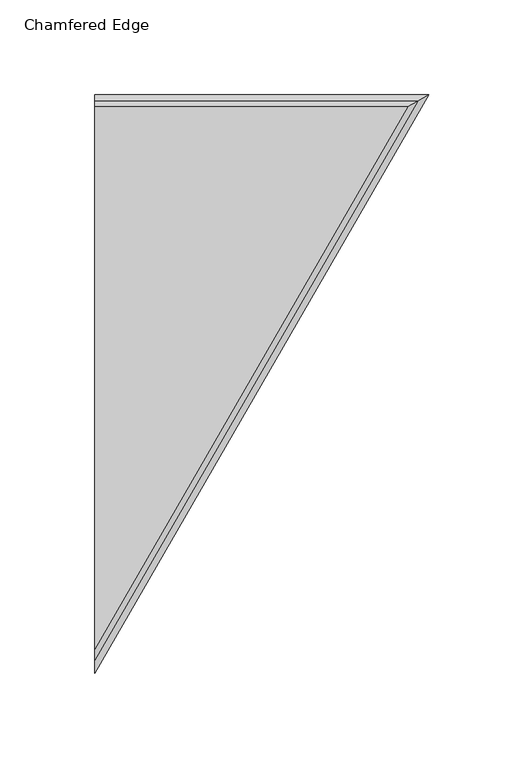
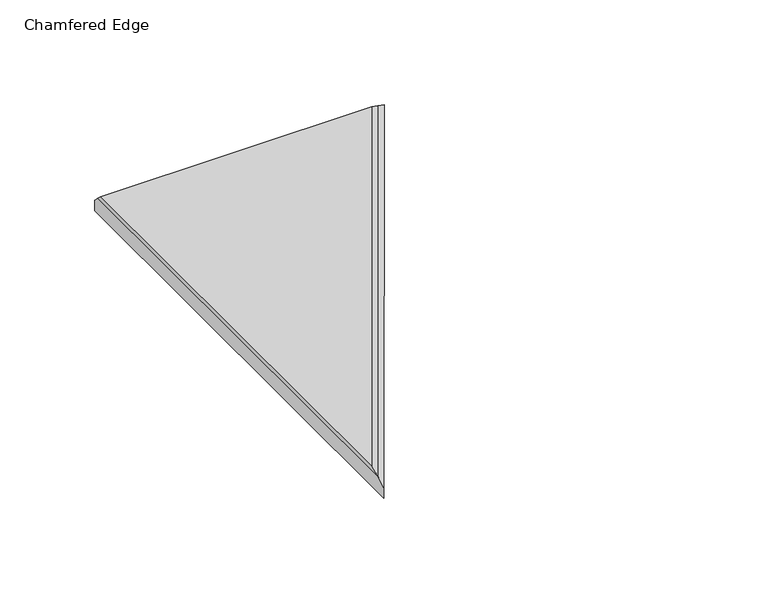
"""IFC4 building model written with IfcOpenShell, lengths in millimetres: proxy geometry, FilzFelt_Triangle_60_Block : Chamfered Edge."""

from ifc_helpers import new_model, si_unit, origin, place, context, project, spatial, faceted_brep, source, transform, mapped, element, save


def chamfered_edge_4244797e(model_context):
    return source(origin(), model_context, "Body", "Brep", [
        faceted_brep([(0.0, 149.1265625, 10.0210937), (170.3695349, 149.1265625, 10.0210937), (0.0, -145.9621279, 10.0210937), (0.0, -140.0090029, 12.9976563), (165.2139774, 146.15, 12.9976563), (0.0, 146.15, 12.9976563)], [[[0, 1, 2]], [[3, 4, 5]], [[4, 3, 2, 1]], [[1, 0, 5, 4]], [[2, 3, 5, 0]]]),
        faceted_brep([(0.0, -152.7090029, 0.0), (0.0, 152.5, 0.0), (176.2125, 152.5, 0.0), (0.0, -145.9621279, 10.0210937), (170.3695349, 149.1265625, 10.0210937), (0.0, 149.1265625, 10.0210937), (0.0, 152.5, 6.6476563), (176.2125, 152.5, 6.6476563), (0.0, -152.7090029, 6.6476563)], [[[0, 1, 2]], [[3, 4, 5]], [[1, 6, 7, 2]], [[2, 7, 8, 0]], [[4, 3, 8, 7]], [[7, 6, 5, 4]], [[0, 8, 3, 5, 6, 1]]]),
    ])


if __name__ == "__main__":
    model = new_model("IFC4")
    model_context = context("Model", 3, world=origin())
    ifc_project = project(units=[si_unit("LENGTHUNIT", "METRE", prefix="MILLI")], contexts=[model_context])
    site = spatial("IfcSite", under=ifc_project)
    building = spatial("IfcBuilding", under=site)
    placement = place(None, origin())
    chamfered_edge_shape = chamfered_edge_4244797e(model_context)
    element("IfcBuildingElementProxy", 1, Name="FilzFelt_Triangle_60_Block : Chamfered Edge", ObjectType="FilzFelt_Triangle_60_Block : Chamfered Edge", at=placement, inside=building, context=model_context, shape_type="MappedRepresentation", body=[
        mapped(chamfered_edge_shape, transform((0.0, 0.0, 0.0), x_axis=(1.0, 0.0, 0.0), y_axis=(0.0, 1.0, 0.0), z_axis=(0.0, 0.0, 1.0))),
    ])
    save(model, "model.ifc")
